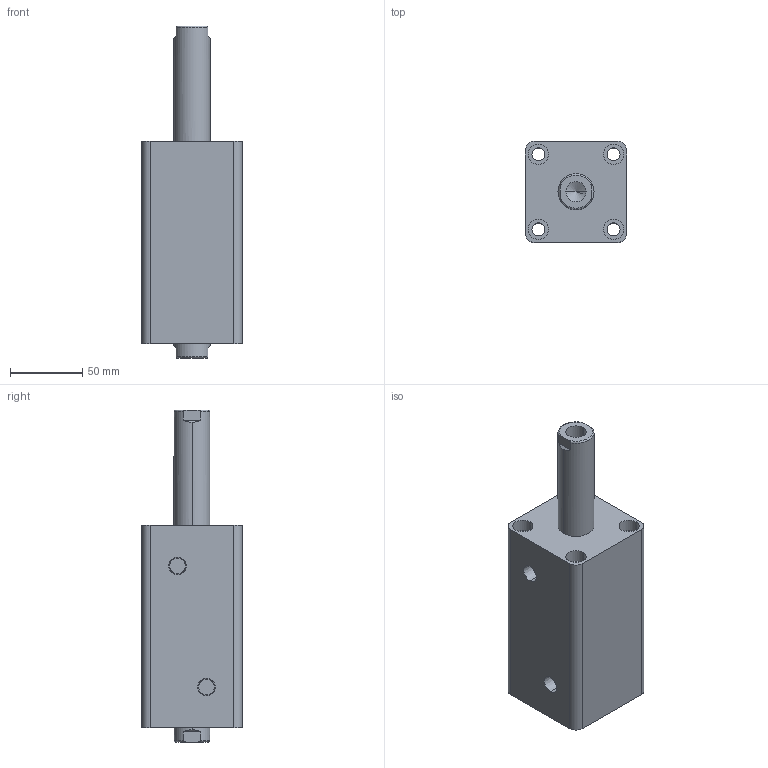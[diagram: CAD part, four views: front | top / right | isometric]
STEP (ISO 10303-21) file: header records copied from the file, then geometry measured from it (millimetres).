
FILE_DESCRIPTION (( 'STEP AP203' ), '1' );
FILE_NAME ('HTB-SW40-70N.STEP', '2019-10-07T09:11:07', ( '微软用户' ), ( '微软中国' ), 'SwSTEP 2.0', 'SolidWorks 2012', '' );
FILE_SCHEMA (( 'CONFIG_CONTROL_DESIGN' ));
Length unit declared in the file: millimetre
Products named in the file (3): HTB-SW40-70N; HTB-SW40-70N活塞杆; HTB-SW40-70掛极
Assembly tree (2 placements, depth 2):
  HTB-SW40-70N
    HTB-SW40-70掛极
    HTB-SW40-70N活塞杆
Bounding box: 70 x 70 x 230 mm (x, y, z)
Volume: 621735.8 mm3; surface area: 103078 mm2
Topology: 2 solids, 2 shells, 100 faces, 228 edges, 146 vertices
Faces by surface type: cylinder 48, plane 32, torus 12, cone 8
Entity records: 3237 total; most frequent: CARTESIAN_POINT 595, DIRECTION 542, ORIENTED_EDGE 448, AXIS2_PLACEMENT_3D 229, EDGE_CURVE 224, VERTEX_POINT 146, EDGE_LOOP 128, CIRCLE 124
